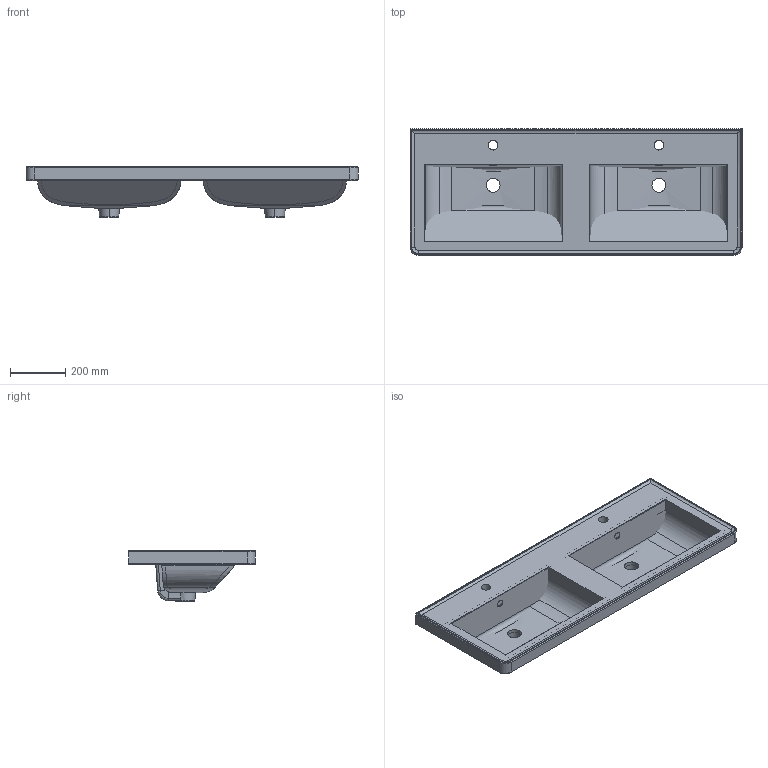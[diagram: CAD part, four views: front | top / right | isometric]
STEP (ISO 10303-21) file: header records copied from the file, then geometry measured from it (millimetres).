
FILE_DESCRIPTION(('FreeCAD Model'),'2;1');
FILE_NAME('Open CASCADE Shape Model','2024-11-19T15:57:27',('Author'),( ''),'Open CASCADE STEP processor 7.6','FreeCAD','Unknown');
FILE_SCHEMA(('AUTOMOTIVE_DESIGN { 1 0 10303 214 1 1 1 1 }'));
Length unit declared in the file: millimetre
Products named in the file (5): TopLevelAssembly; Połączona geometria bryłowa; Połączona geometria bryłowa003; Połączona geometria bryłowa001; Połączona geometria bryłowa002
Assembly tree (4 placements, depth 3):
  TopLevelAssembly
    Połączona geometria bryłowa
    Połączona geometria bryłowa003
      Połączona geometria bryłowa001
      Połączona geometria bryłowa002
Bounding box: 1201.84 x 458.92 x 183.07 mm (x, y, z)
Volume: 20849871.1 mm3; surface area: 2253700.4 mm2
Topology: 3 solids, 3 shells, 187 faces, 530 edges, 342 vertices
Faces by surface type: cylinder 92, plane 71, bspline 24
Entity records: 7074 total; most frequent: CARTESIAN_POINT 2196, ORIENTED_EDGE 1060, DIRECTION 944, EDGE_CURVE 530, VERTEX_POINT 342, AXIS2_PLACEMENT_3D 336, LINE 272, VECTOR 272
